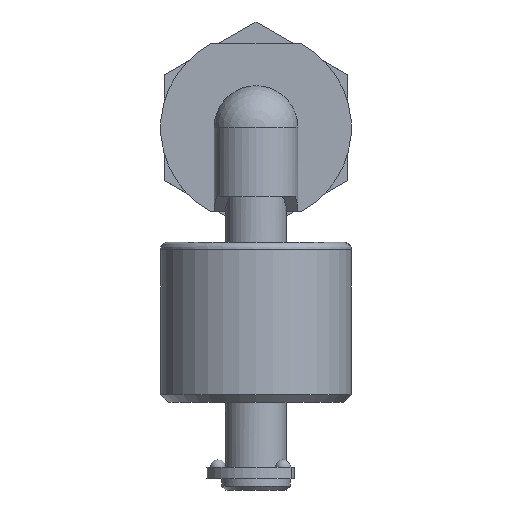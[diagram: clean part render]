
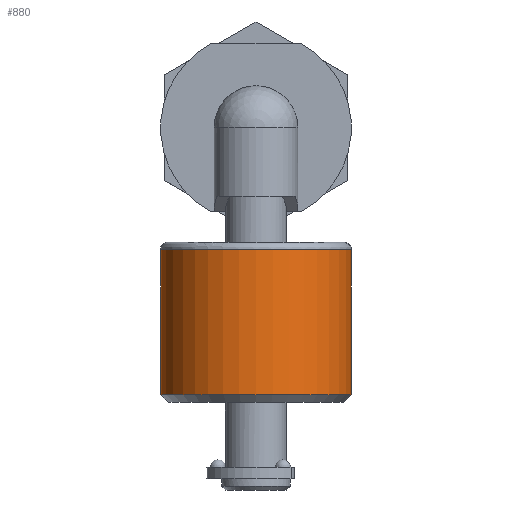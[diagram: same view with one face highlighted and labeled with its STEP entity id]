
A CAD part, front view. The second image highlights one B-rep face of the part: STEP entity #880.
In plain terms, the highlighted cylindrical face has radius 12.5 mm (diameter 25 mm), a full revolution.
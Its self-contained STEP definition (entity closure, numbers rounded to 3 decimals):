
#637=FACE_BOUND('',#1096,.T.);
#638=FACE_BOUND('',#1097,.T.);
#706=CIRCLE('',#2178,12.5);
#707=CIRCLE('',#2179,12.5);
#741=CYLINDRICAL_SURFACE('',#2180,12.5);
#880=ADVANCED_FACE('',(#637,#638),#741,.T.);
#1096=EDGE_LOOP('',(#1650));
#1097=EDGE_LOOP('',(#1651));
#1650=ORIENTED_EDGE('',*,*,#2018,.F.);
#1651=ORIENTED_EDGE('',*,*,#2019,.T.);
#1813=VERTEX_POINT('',#14500);
#1814=VERTEX_POINT('',#14502);
#2018=EDGE_CURVE('',#1813,#1813,#706,.T.);
#2019=EDGE_CURVE('',#1814,#1814,#707,.T.);
#2178=AXIS2_PLACEMENT_3D('',#14499,#2535,#2536);
#2179=AXIS2_PLACEMENT_3D('',#14501,#2537,#2538);
#2180=AXIS2_PLACEMENT_3D('',#14503,#2539,#2540);
#2535=DIRECTION('',(0.,0.,1.));
#2536=DIRECTION('',(-1.,0.,0.));
#2537=DIRECTION('',(0.,0.,1.));
#2538=DIRECTION('',(0.,-1.,0.));
#2539=DIRECTION('',(0.,0.,1.));
#2540=DIRECTION('',(0.,-1.,0.));
#14499=CARTESIAN_POINT('',(0.,5.5,-16.006));
#14500=CARTESIAN_POINT('',(-12.5,5.5,-16.006));
#14501=CARTESIAN_POINT('',(0.,5.5,-35.));
#14502=CARTESIAN_POINT('',(0.,-7.,-35.));
#14503=CARTESIAN_POINT('',(0.,5.5,310.));
